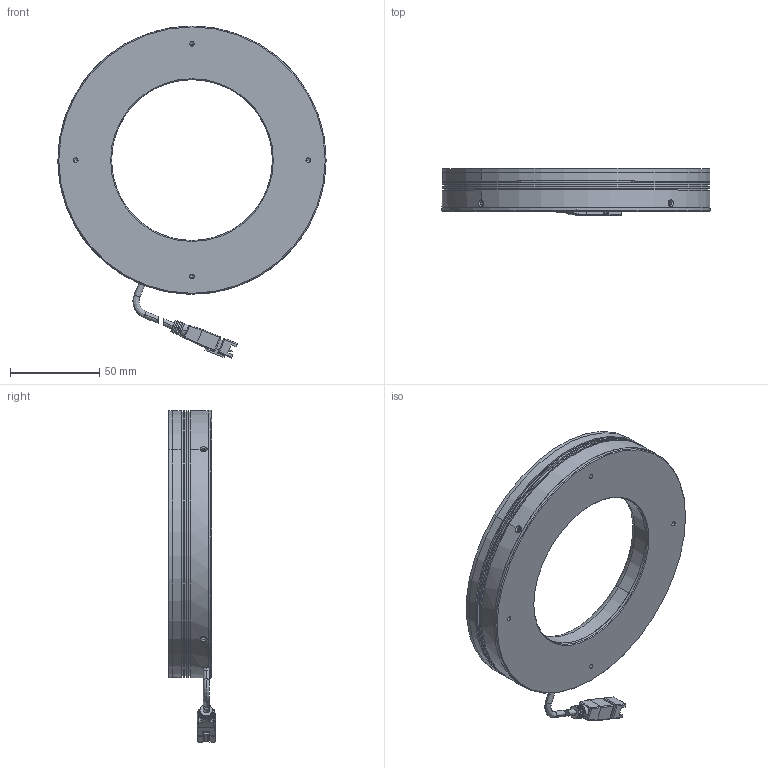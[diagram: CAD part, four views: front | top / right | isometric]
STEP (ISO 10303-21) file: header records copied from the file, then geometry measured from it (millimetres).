
FILE_DESCRIPTION (( 'STEP AP203' ), '1' );
FILE_NAME ('P-RL-150-60-00.STEP', '2026-03-13T08:48:26', ( '' ), ( '' ), 'SwSTEP 2.0', 'SolidWorks 2022', '' );
FILE_SCHEMA (( 'CONFIG_CONTROL_DESIGN' ));
Length unit declared in the file: millimetre
Products named in the file (6): 光源线; P-RL-150-60-002; P-RL-150-60; P-RL-150-60-00; P-RL-150-60-001; 15060灯珠-00
Assembly tree (5 placements, depth 2):
  P-RL-150-60-00
    P-RL-150-60-001
    P-RL-150-60-002
    P-RL-150-60
    15060灯珠-00
    光源线
Bounding box: 150 x 26.01 x 185.7 mm (x, y, z)
Volume: 149527 mm3; surface area: 111274.1 mm2
Topology: 7 solids, 7 shells, 407 faces, 986 edges, 588 vertices
Faces by surface type: cylinder 148, plane 144, cone 63, torus 32, bspline 20
Entity records: 13484 total; most frequent: CARTESIAN_POINT 3508, DIRECTION 2006, ORIENTED_EDGE 1900, EDGE_CURVE 950, AXIS2_PLACEMENT_3D 764, VERTEX_POINT 588, LINE 478, VECTOR 478
